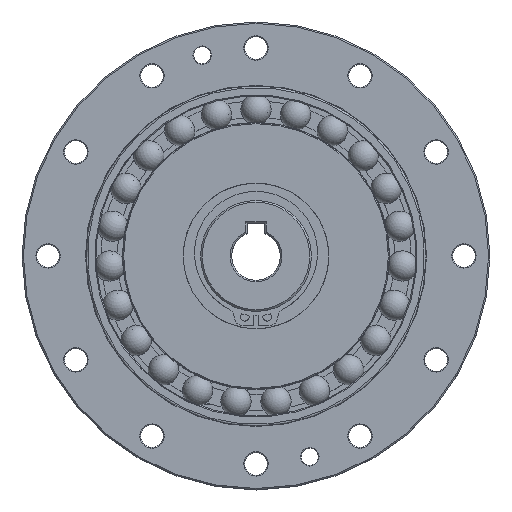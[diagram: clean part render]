
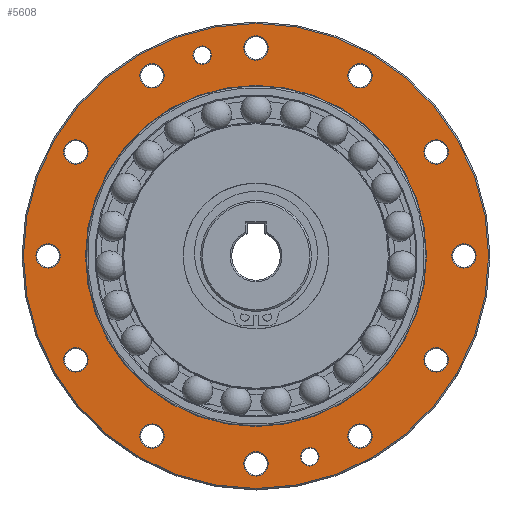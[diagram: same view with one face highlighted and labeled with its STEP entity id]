
A CAD part, top view. The second image highlights one B-rep face of the part: STEP entity #5608.
In plain terms, the highlighted planar face has unit normal (0, 0, 1).
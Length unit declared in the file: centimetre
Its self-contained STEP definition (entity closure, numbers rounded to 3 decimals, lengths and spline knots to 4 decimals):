
#504=PLANE($,#6432);
#599=FACE_BOUND($,#1680,.T.);
#600=FACE_BOUND($,#1681,.T.);
#601=FACE_BOUND($,#1682,.T.);
#602=FACE_BOUND($,#1683,.T.);
#603=FACE_BOUND($,#1684,.T.);
#604=FACE_BOUND($,#1685,.T.);
#605=FACE_BOUND($,#1686,.T.);
#606=FACE_BOUND($,#1687,.T.);
#607=FACE_BOUND($,#1688,.T.);
#608=FACE_BOUND($,#1689,.T.);
#609=FACE_BOUND($,#1690,.T.);
#610=FACE_BOUND($,#1691,.T.);
#611=FACE_BOUND($,#1692,.T.);
#612=FACE_BOUND($,#1693,.T.);
#613=FACE_BOUND($,#1694,.T.);
#1245=FACE_OUTER_BOUND($,#1679,.T.);
#1679=EDGE_LOOP($,(#5038));
#1680=EDGE_LOOP($,(#5039));
#1681=EDGE_LOOP($,(#5040));
#1682=EDGE_LOOP($,(#5041));
#1683=EDGE_LOOP($,(#5042));
#1684=EDGE_LOOP($,(#5043));
#1685=EDGE_LOOP($,(#5044));
#1686=EDGE_LOOP($,(#5045));
#1687=EDGE_LOOP($,(#5046));
#1688=EDGE_LOOP($,(#5047));
#1689=EDGE_LOOP($,(#5048));
#1690=EDGE_LOOP($,(#5049));
#1691=EDGE_LOOP($,(#5050));
#1692=EDGE_LOOP($,(#5051));
#1693=EDGE_LOOP($,(#5052));
#1694=EDGE_LOOP($,(#5053));
#2281=CIRCLE($,#6431,4.9194);
#2282=CIRCLE($,#6433,6.71);
#2283=CIRCLE($,#6434,0.2659);
#2284=CIRCLE($,#6435,0.35);
#2285=CIRCLE($,#6436,0.35);
#2286=CIRCLE($,#6437,0.35);
#2287=CIRCLE($,#6438,0.35);
#2288=CIRCLE($,#6439,0.35);
#2289=CIRCLE($,#6440,0.35);
#2290=CIRCLE($,#6441,0.35);
#2291=CIRCLE($,#6442,0.35);
#2292=CIRCLE($,#6443,0.2659);
#2293=CIRCLE($,#6444,0.35);
#2294=CIRCLE($,#6445,0.35);
#2295=CIRCLE($,#6446,0.35);
#2296=CIRCLE($,#6447,0.35);
#2787=VERTEX_POINT($,#10300);
#2788=VERTEX_POINT($,#10303);
#2789=VERTEX_POINT($,#10305);
#2790=VERTEX_POINT($,#10307);
#2791=VERTEX_POINT($,#10309);
#2792=VERTEX_POINT($,#10311);
#2793=VERTEX_POINT($,#10313);
#2794=VERTEX_POINT($,#10315);
#2795=VERTEX_POINT($,#10317);
#2796=VERTEX_POINT($,#10319);
#2797=VERTEX_POINT($,#10321);
#2798=VERTEX_POINT($,#10323);
#2799=VERTEX_POINT($,#10325);
#2800=VERTEX_POINT($,#10327);
#2801=VERTEX_POINT($,#10329);
#2802=VERTEX_POINT($,#10331);
#3529=EDGE_CURVE($,#2787,#2787,#2281,.T.);
#3530=EDGE_CURVE($,#2788,#2788,#2282,.T.);
#3531=EDGE_CURVE($,#2789,#2789,#2283,.T.);
#3532=EDGE_CURVE($,#2790,#2790,#2284,.T.);
#3533=EDGE_CURVE($,#2791,#2791,#2285,.T.);
#3534=EDGE_CURVE($,#2792,#2792,#2286,.T.);
#3535=EDGE_CURVE($,#2793,#2793,#2287,.T.);
#3536=EDGE_CURVE($,#2794,#2794,#2288,.T.);
#3537=EDGE_CURVE($,#2795,#2795,#2289,.T.);
#3538=EDGE_CURVE($,#2796,#2796,#2290,.T.);
#3539=EDGE_CURVE($,#2797,#2797,#2291,.T.);
#3540=EDGE_CURVE($,#2798,#2798,#2292,.T.);
#3541=EDGE_CURVE($,#2799,#2799,#2293,.T.);
#3542=EDGE_CURVE($,#2800,#2800,#2294,.T.);
#3543=EDGE_CURVE($,#2801,#2801,#2295,.T.);
#3544=EDGE_CURVE($,#2802,#2802,#2296,.T.);
#5038=ORIENTED_EDGE($,*,*,#3530,.F.);
#5039=ORIENTED_EDGE($,*,*,#3531,.F.);
#5040=ORIENTED_EDGE($,*,*,#3532,.F.);
#5041=ORIENTED_EDGE($,*,*,#3533,.F.);
#5042=ORIENTED_EDGE($,*,*,#3534,.F.);
#5043=ORIENTED_EDGE($,*,*,#3535,.F.);
#5044=ORIENTED_EDGE($,*,*,#3536,.F.);
#5045=ORIENTED_EDGE($,*,*,#3537,.F.);
#5046=ORIENTED_EDGE($,*,*,#3538,.F.);
#5047=ORIENTED_EDGE($,*,*,#3539,.F.);
#5048=ORIENTED_EDGE($,*,*,#3540,.F.);
#5049=ORIENTED_EDGE($,*,*,#3541,.F.);
#5050=ORIENTED_EDGE($,*,*,#3542,.F.);
#5051=ORIENTED_EDGE($,*,*,#3543,.F.);
#5052=ORIENTED_EDGE($,*,*,#3544,.F.);
#5053=ORIENTED_EDGE($,*,*,#3529,.T.);
#5608=ADVANCED_FACE($,(#1245,#599,#600,#601,#602,#603,#604,#605,#606,#607,
#608,#609,#610,#611,#612,#613),#504,.T.);
#6431=AXIS2_PLACEMENT_3D($,#10301,#8223,#8224);
#6432=AXIS2_PLACEMENT_3D($,#10302,#8225,#8226);
#6433=AXIS2_PLACEMENT_3D($,#10304,#8227,#8228);
#6434=AXIS2_PLACEMENT_3D($,#10306,#8229,#8230);
#6435=AXIS2_PLACEMENT_3D($,#10308,#8231,#8232);
#6436=AXIS2_PLACEMENT_3D($,#10310,#8233,#8234);
#6437=AXIS2_PLACEMENT_3D($,#10312,#8235,#8236);
#6438=AXIS2_PLACEMENT_3D($,#10314,#8237,#8238);
#6439=AXIS2_PLACEMENT_3D($,#10316,#8239,#8240);
#6440=AXIS2_PLACEMENT_3D($,#10318,#8241,#8242);
#6441=AXIS2_PLACEMENT_3D($,#10320,#8243,#8244);
#6442=AXIS2_PLACEMENT_3D($,#10322,#8245,#8246);
#6443=AXIS2_PLACEMENT_3D($,#10324,#8247,#8248);
#6444=AXIS2_PLACEMENT_3D($,#10326,#8249,#8250);
#6445=AXIS2_PLACEMENT_3D($,#10328,#8251,#8252);
#6446=AXIS2_PLACEMENT_3D($,#10330,#8253,#8254);
#6447=AXIS2_PLACEMENT_3D($,#10332,#8255,#8256);
#8223=DIRECTION('center_axis',(0.,0.,-1.));
#8224=DIRECTION('ref_axis',(-1.,0.,0.));
#8225=DIRECTION('center_axis',(0.,0.,1.));
#8226=DIRECTION('ref_axis',(-1.,0.,0.));
#8227=DIRECTION('center_axis',(0.,0.,-1.));
#8228=DIRECTION('ref_axis',(0.,-1.,0.));
#8229=DIRECTION('center_axis',(0.,0.,1.));
#8230=DIRECTION('ref_axis',(1.,0.,0.));
#8231=DIRECTION('center_axis',(0.,0.,1.));
#8232=DIRECTION('ref_axis',(-0.866,0.5,0.));
#8233=DIRECTION('center_axis',(0.,0.,1.));
#8234=DIRECTION('ref_axis',(0.,1.,0.));
#8235=DIRECTION('center_axis',(0.,0.,1.));
#8236=DIRECTION('ref_axis',(0.866,0.5,0.));
#8237=DIRECTION('center_axis',(0.,0.,1.));
#8238=DIRECTION('ref_axis',(0.866,-0.5,0.));
#8239=DIRECTION('center_axis',(0.,0.,1.));
#8240=DIRECTION('ref_axis',(0.5,-0.866,0.));
#8241=DIRECTION('center_axis',(0.,0.,1.));
#8242=DIRECTION('ref_axis',(-0.5,-0.866,0.));
#8243=DIRECTION('center_axis',(0.,0.,1.));
#8244=DIRECTION('ref_axis',(-0.866,-0.5,0.));
#8245=DIRECTION('center_axis',(0.,0.,1.));
#8246=DIRECTION('ref_axis',(0.,-1.,0.));
#8247=DIRECTION('center_axis',(0.,0.,1.));
#8248=DIRECTION('ref_axis',(-1.,0.,0.));
#8249=DIRECTION('center_axis',(0.,0.,1.));
#8250=DIRECTION('ref_axis',(1.,0.,0.));
#8251=DIRECTION('center_axis',(0.,0.,1.));
#8252=DIRECTION('ref_axis',(0.5,0.866,0.));
#8253=DIRECTION('center_axis',(0.,0.,1.));
#8254=DIRECTION('ref_axis',(-0.5,0.866,0.));
#8255=DIRECTION('center_axis',(0.,0.,1.));
#8256=DIRECTION('ref_axis',(-1.,0.,0.));
#10300=CARTESIAN_POINT('',(-4.9194,0.,2.1));
#10301=CARTESIAN_POINT('Origin',(0.,0.,2.1));
#10302=CARTESIAN_POINT('Origin',(-5.045,0.,2.1));
#10303=CARTESIAN_POINT('',(0.,6.71,2.1));
#10304=CARTESIAN_POINT('Origin',(0.,0.,2.1));
#10305=CARTESIAN_POINT('',(-1.8188,5.7956,2.1));
#10306=CARTESIAN_POINT('Origin',(-1.5529,5.7956,2.1));
#10307=CARTESIAN_POINT('',(3.3031,5.0212,2.1));
#10308=CARTESIAN_POINT('Origin',(3.,5.1962,2.1));
#10309=CARTESIAN_POINT('',(6.,-0.35,2.1));
#10310=CARTESIAN_POINT('Origin',(6.,0.,2.1));
#10311=CARTESIAN_POINT('',(2.6969,-5.3712,2.1));
#10312=CARTESIAN_POINT('Origin',(3.,-5.1962,2.1));
#10313=CARTESIAN_POINT('',(-3.3031,-5.0212,2.1));
#10314=CARTESIAN_POINT('Origin',(-3.,-5.1962,2.1));
#10315=CARTESIAN_POINT('',(-5.3712,-2.6969,2.1));
#10316=CARTESIAN_POINT('Origin',(-5.1962,-3.,2.1));
#10317=CARTESIAN_POINT('',(-5.0212,3.3031,2.1));
#10318=CARTESIAN_POINT('Origin',(-5.1962,3.,2.1));
#10319=CARTESIAN_POINT('',(-2.6969,5.3712,2.1));
#10320=CARTESIAN_POINT('Origin',(-3.,5.1962,2.1));
#10321=CARTESIAN_POINT('',(-6.,0.35,2.1));
#10322=CARTESIAN_POINT('Origin',(-6.,0.,2.1));
#10323=CARTESIAN_POINT('',(1.8188,-5.7956,2.1));
#10324=CARTESIAN_POINT('Origin',(1.5529,-5.7956,2.1));
#10325=CARTESIAN_POINT('',(-0.35,-6.,2.1));
#10326=CARTESIAN_POINT('Origin',(0.,-6.,2.1));
#10327=CARTESIAN_POINT('',(5.0212,-3.3031,2.1));
#10328=CARTESIAN_POINT('Origin',(5.1962,-3.,2.1));
#10329=CARTESIAN_POINT('',(5.3712,2.6969,2.1));
#10330=CARTESIAN_POINT('Origin',(5.1962,3.,2.1));
#10331=CARTESIAN_POINT('',(0.35,6.,2.1));
#10332=CARTESIAN_POINT('Origin',(0.,6.,2.1));
